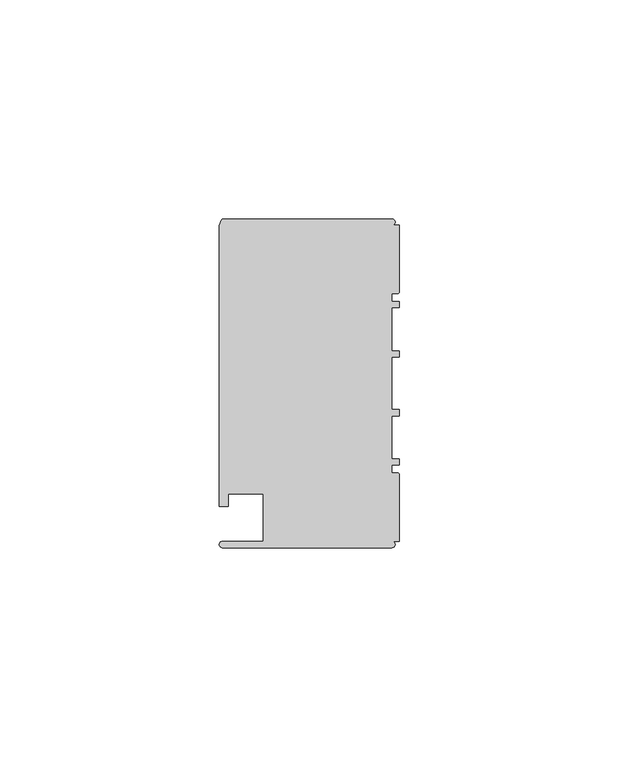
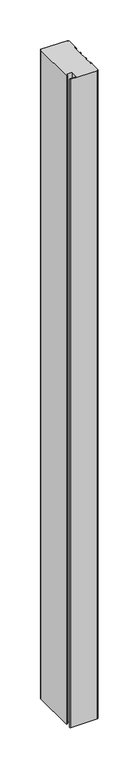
"""IFC4 building model written with IfcOpenShell, lengths in millimetres: member geometry, Прямоугольный импост : 1-AMG-1-Профиль 40Х75 Низ Л."""

from ifc_helpers import new_model, si_unit, point, frame, frame_2d, origin, place, context, project, spatial, polyline, circle_curve, trimmed, segment, composite_curve, outline, extrude, source, transform, mapped, element, save


def member_debc56be(model_context):
    return source(origin(), model_context, "Body", "SweptSolid", [
        extrude(outline(composite_curve([segment(polyline([(-1.7, -37.5), (-40.4, -37.5)]), True, "CONTINUOUS"), segment(trimmed(circle_curve(frame_2d((-40.4, -36.8)), 0.7), [point((-40.4, -37.5))], [point((-40.4, -36.1))], False, "CARTESIAN"), True, "CONTINUOUS"), segment(polyline([(-40.4, -36.1), (-31.0, -36.1), (-31.0, -25.25), (-39.0, -25.25), (-39.0, -28.1), (-41.1, -28.1), (-41.1, 35.6)]), True, "CONTINUOUS"), segment(trimmed(circle_curve(frame_2d((-38.1714286, 35.6)), 2.9285714), [point((-41.1, 35.6))], [point((-40.4, 37.5))], False, "CARTESIAN"), True, "CONTINUOUS"), segment(polyline([(-40.4, 37.5), (-1.7, 37.5)]), True, "CONTINUOUS"), segment(trimmed(circle_curve(frame_2d((-1.7, 36.8)), 0.7), [point((-1.7, 37.5))], [point((-1.7, 36.1))], False, "CARTESIAN"), True, "CONTINUOUS"), segment(polyline([(-1.7, 36.1), (0.0, 36.1), (0.0, 20.95)]), True, "CONTINUOUS"), segment(trimmed(circle_curve(frame_2d((-0.5, 20.95)), 0.5), [point((0.0, 20.95))], [point((-0.5, 20.45))], False, "CARTESIAN"), True, "CONTINUOUS"), segment(polyline([(-0.5, 20.45), (-1.8, 20.45), (-1.8, 18.65), (0.0, 18.65), (0.0, 17.25), (-1.8, 17.25), (-1.8, 7.4), (0.0, 7.4), (0.0, 6.0), (-1.8, 6.0), (-1.8, -6.0), (0.0, -6.0), (0.0, -7.4), (-1.8, -7.4), (-1.8, -17.25), (0.0, -17.25), (0.0, -18.65), (-1.8, -18.65), (-1.8, -20.45), (-0.5, -20.45)]), True, "CONTINUOUS"), segment(trimmed(circle_curve(frame_2d((-0.5, -20.95)), 0.5), [point((-0.5, -20.45))], [point((0.0, -20.95))], False, "CARTESIAN"), True, "CONTINUOUS"), segment(polyline([(0.0, -20.95), (0.0, -36.1), (-1.7, -36.1)]), True, "CONTINUOUS"), segment(trimmed(circle_curve(frame_2d((-1.7, -36.8)), 0.7), [point((-1.7, -36.1))], [point((-1.7, -37.5))], False, "CARTESIAN"), True, "CONTINUOUS")], self_intersect=False)), frame((0.0, 0.0, -984.8455724), z_axis=(0.0, 0.0, 1.0), x_axis=(1.0, 0.0, 0.0)), (0.0, 0.0, 1.0), 984.8455724),
    ])


if __name__ == "__main__":
    model = new_model("IFC4")
    model_context = context("Model", 3, world=origin())
    ifc_project = project(units=[si_unit("LENGTHUNIT", "METRE", prefix="MILLI")], contexts=[model_context])
    site = spatial("IfcSite", under=ifc_project)
    building = spatial("IfcBuilding", under=site)
    placement = place(None, origin())
    member_shape = member_debc56be(model_context)
    element("IfcMember", 1, ObjectType="Прямоугольный импост : 1-AMG-1-Профиль 40Х75 Низ Л", at=placement, inside=building, context=model_context, shape_type="MappedRepresentation", body=[
        mapped(member_shape, transform((0.0, 0.0, 0.0), x_axis=(1.0, 0.0, 0.0), y_axis=(0.0, 1.0, 0.0), z_axis=(0.0, 0.0, 1.0))),
    ])
    save(model, "model.ifc")
